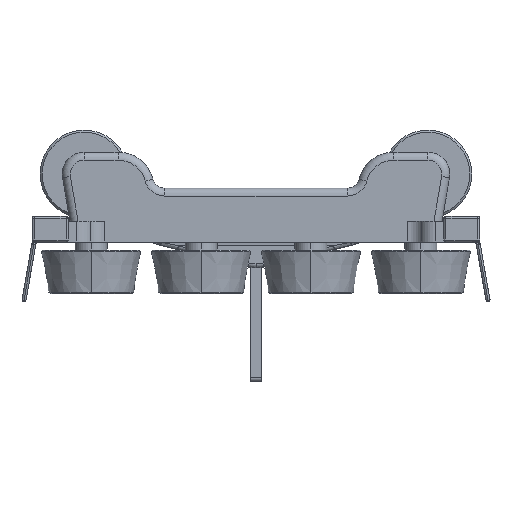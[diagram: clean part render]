
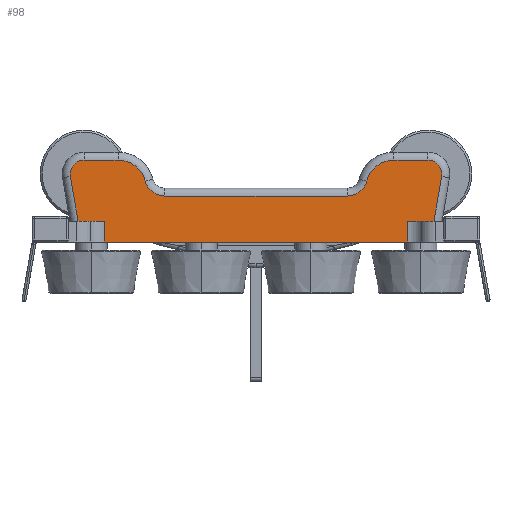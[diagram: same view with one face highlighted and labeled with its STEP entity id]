
A CAD part, front view. The second image highlights one B-rep face of the part: STEP entity #98.
In plain terms, the highlighted planar face has unit normal (0, -1, 0).
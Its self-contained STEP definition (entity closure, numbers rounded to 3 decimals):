
#7 = CARTESIAN_POINT ( 'NONE',  ( -43., -24.1, 15.5 ) ) ;
#98 = ADVANCED_FACE ( 'NONE', ( #12460 ), #105, .F. ) ;
#105 = PLANE ( 'NONE',  #8173 ) ;
#114 = CIRCLE ( 'NONE', #12217, 5. ) ;
#132 = CARTESIAN_POINT ( 'NONE',  ( -38., -24.1, -1.5 ) ) ;
#199 = VECTOR ( 'NONE', #4588, 1000. ) ;
#244 = EDGE_CURVE ( 'NONE', #2127, #3240, #6167, .T. ) ;
#251 = DIRECTION ( 'NONE',  ( 0., 0., -1. ) ) ;
#332 = VECTOR ( 'NONE', #1575, 1000. ) ;
#339 = ORIENTED_EDGE ( 'NONE', *, *, #6536, .T. ) ;
#383 = EDGE_CURVE ( 'NONE', #9277, #11331, #9674, .T. ) ;
#438 = LINE ( 'NONE', #10264, #6178 ) ;
#629 = CARTESIAN_POINT ( 'NONE',  ( 30., -24.1, -1.5 ) ) ;
#715 = VERTEX_POINT ( 'NONE', #5514 ) ;
#717 = CIRCLE ( 'NONE', #3343, 3.5 ) ;
#730 = CARTESIAN_POINT ( 'NONE',  ( -22.881, -24.1, 15. ) ) ;
#744 = LINE ( 'NONE', #629, #332 ) ;
#800 = DIRECTION ( 'NONE',  ( 0.17, 0., -0.985 ) ) ;
#913 = ORIENTED_EDGE ( 'NONE', *, *, #1101, .T. ) ;
#915 = CARTESIAN_POINT ( 'NONE',  ( -43., -24.1, 19. ) ) ;
#1101 = EDGE_CURVE ( 'NONE', #8012, #2127, #12341, .T. ) ;
#1287 = VERTEX_POINT ( 'NONE', #1860 ) ;
#1412 = CIRCLE ( 'NONE', #8259, 3.5 ) ;
#1440 = DIRECTION ( 'NONE',  ( 0., 1., 0. ) ) ;
#1443 = EDGE_LOOP ( 'NONE', ( #12444, #1889, #7961, #339, #4958, #7794, #913, #6100, #2159, #4311, #6827, #4102, #9573, #1613, #5955, #4322, #6324, #11635 ) ) ;
#1445 = CARTESIAN_POINT ( 'NONE',  ( 30., -24.1, -1.5 ) ) ;
#1575 = DIRECTION ( 'NONE',  ( -1., 0., 0. ) ) ;
#1613 = ORIENTED_EDGE ( 'NONE', *, *, #4382, .T. ) ;
#1755 = DIRECTION ( 'NONE',  ( -1., 0., 0. ) ) ;
#1829 = VERTEX_POINT ( 'NONE', #5233 ) ;
#1857 = CARTESIAN_POINT ( 'NONE',  ( 30., -24.1, 3.7 ) ) ;
#1860 = CARTESIAN_POINT ( 'NONE',  ( -44.517, -24.1, 3.7 ) ) ;
#1889 = ORIENTED_EDGE ( 'NONE', *, *, #11425, .T. ) ;
#2024 = DIRECTION ( 'NONE',  ( 0., -1., 0. ) ) ;
#2026 = CARTESIAN_POINT ( 'NONE',  ( -13.75, -24.1, -1.5 ) ) ;
#2127 = VERTEX_POINT ( 'NONE', #12458 ) ;
#2159 = ORIENTED_EDGE ( 'NONE', *, *, #12002, .T. ) ;
#2438 = VECTOR ( 'NONE', #7360, 1000. ) ;
#2474 = DIRECTION ( 'NONE',  ( 0., -1., 0. ) ) ;
#2502 = CARTESIAN_POINT ( 'NONE',  ( -43., -24.1, 19. ) ) ;
#2689 = LINE ( 'NONE', #9367, #11203 ) ;
#2830 = VERTEX_POINT ( 'NONE', #7406 ) ;
#3020 = LINE ( 'NONE', #11917, #11709 ) ;
#3066 = VERTEX_POINT ( 'NONE', #2026 ) ;
#3178 = CARTESIAN_POINT ( 'NONE',  ( 22.881, -24.1, 15. ) ) ;
#3189 = DIRECTION ( 'NONE',  ( -1., 0., 0. ) ) ;
#3240 = VERTEX_POINT ( 'NONE', #8453 ) ;
#3265 = VERTEX_POINT ( 'NONE', #6137 ) ;
#3317 = VERTEX_POINT ( 'NONE', #5622 ) ;
#3343 = AXIS2_PLACEMENT_3D ( 'NONE', #7, #2024, #6750 ) ;
#3392 = DIRECTION ( 'NONE',  ( 0., 0., 1. ) ) ;
#3430 = CARTESIAN_POINT ( 'NONE',  ( 34.5, -24.1, 12. ) ) ;
#3519 = DIRECTION ( 'NONE',  ( 0.17, 0., 0.985 ) ) ;
#3710 = CARTESIAN_POINT ( 'NONE',  ( -44.576, -24.1, 4.04 ) ) ;
#3762 = VECTOR ( 'NONE', #800, 1000. ) ;
#3775 = DIRECTION ( 'NONE',  ( 0., 0., 1. ) ) ;
#3818 = LINE ( 'NONE', #1857, #6992 ) ;
#4102 = ORIENTED_EDGE ( 'NONE', *, *, #7606, .T. ) ;
#4311 = ORIENTED_EDGE ( 'NONE', *, *, #383, .T. ) ;
#4322 = ORIENTED_EDGE ( 'NONE', *, *, #7380, .F. ) ;
#4382 = EDGE_CURVE ( 'NONE', #9453, #6188, #3020, .T. ) ;
#4519 = DIRECTION ( 'NONE',  ( 0., -1., 0. ) ) ;
#4524 = DIRECTION ( 'NONE',  ( 0., 0., 1. ) ) ;
#4588 = DIRECTION ( 'NONE',  ( -1., 0., 0. ) ) ;
#4611 = VERTEX_POINT ( 'NONE', #5298 ) ;
#4672 = CARTESIAN_POINT ( 'NONE',  ( 38., -24.1, 12. ) ) ;
#4694 = LINE ( 'NONE', #9533, #11279 ) ;
#4713 = CARTESIAN_POINT ( 'NONE',  ( 30., -24.1, 10. ) ) ;
#4958 = ORIENTED_EDGE ( 'NONE', *, *, #5035, .T. ) ;
#5035 = EDGE_CURVE ( 'NONE', #715, #2830, #6330, .T. ) ;
#5077 = DIRECTION ( 'NONE',  ( 0., 0., 1. ) ) ;
#5233 = CARTESIAN_POINT ( 'NONE',  ( -46.449, -24.1, 14.905 ) ) ;
#5298 = CARTESIAN_POINT ( 'NONE',  ( 38., -24.1, 3.7 ) ) ;
#5467 = AXIS2_PLACEMENT_3D ( 'NONE', #8242, #4519, #12084 ) ;
#5514 = CARTESIAN_POINT ( 'NONE',  ( 34.5, -24.1, 19. ) ) ;
#5530 = CARTESIAN_POINT ( 'NONE',  ( 30., -24.1, 3.7 ) ) ;
#5622 = CARTESIAN_POINT ( 'NONE',  ( 44.517, -24.1, 3.7 ) ) ;
#5863 = VECTOR ( 'NONE', #8395, 1000. ) ;
#5955 = ORIENTED_EDGE ( 'NONE', *, *, #6544, .F. ) ;
#6035 = VERTEX_POINT ( 'NONE', #10545 ) ;
#6090 = DIRECTION ( 'NONE',  ( 0., 0., 1. ) ) ;
#6100 = ORIENTED_EDGE ( 'NONE', *, *, #244, .T. ) ;
#6137 = CARTESIAN_POINT ( 'NONE',  ( 43., -24.1, 19. ) ) ;
#6164 = EDGE_CURVE ( 'NONE', #11331, #1829, #717, .T. ) ;
#6167 = CIRCLE ( 'NONE', #10187, 5. ) ;
#6178 = VECTOR ( 'NONE', #12030, 1000. ) ;
#6188 = VERTEX_POINT ( 'NONE', #132 ) ;
#6292 = CARTESIAN_POINT ( 'NONE',  ( -34.5, -24.1, 19. ) ) ;
#6324 = ORIENTED_EDGE ( 'NONE', *, *, #9896, .F. ) ;
#6330 = CIRCLE ( 'NONE', #8134, 7. ) ;
#6421 = LINE ( 'NONE', #5530, #2438 ) ;
#6528 = CARTESIAN_POINT ( 'NONE',  ( 22.881, -24.1, 10. ) ) ;
#6536 = EDGE_CURVE ( 'NONE', #3265, #715, #2689, .T. ) ;
#6544 = EDGE_CURVE ( 'NONE', #3066, #6188, #744, .T. ) ;
#6588 = DIRECTION ( 'NONE',  ( -1., 0., 0. ) ) ;
#6750 = DIRECTION ( 'NONE',  ( 0., 0., 1. ) ) ;
#6784 = VECTOR ( 'NONE', #1755, 1000. ) ;
#6827 = ORIENTED_EDGE ( 'NONE', *, *, #6164, .T. ) ;
#6992 = VECTOR ( 'NONE', #6588, 1000. ) ;
#7109 = EDGE_CURVE ( 'NONE', #2830, #8012, #114, .T. ) ;
#7332 = CARTESIAN_POINT ( 'NONE',  ( 38., -24.1, -1.5 ) ) ;
#7360 = DIRECTION ( 'NONE',  ( -1., 0., 0. ) ) ;
#7363 = LINE ( 'NONE', #1445, #199 ) ;
#7380 = EDGE_CURVE ( 'NONE', #10776, #3066, #438, .T. ) ;
#7406 = CARTESIAN_POINT ( 'NONE',  ( 27.722, -24.1, 13.75 ) ) ;
#7606 = EDGE_CURVE ( 'NONE', #1829, #1287, #9430, .T. ) ;
#7614 = CARTESIAN_POINT ( 'NONE',  ( 30., -24.1, 12. ) ) ;
#7794 = ORIENTED_EDGE ( 'NONE', *, *, #7109, .T. ) ;
#7961 = ORIENTED_EDGE ( 'NONE', *, *, #9883, .T. ) ;
#8012 = VERTEX_POINT ( 'NONE', #6528 ) ;
#8045 = EDGE_CURVE ( 'NONE', #9453, #1287, #3818, .T. ) ;
#8134 = AXIS2_PLACEMENT_3D ( 'NONE', #3430, #2474, #6090 ) ;
#8173 = AXIS2_PLACEMENT_3D ( 'NONE', #7614, #8501, #3775 ) ;
#8242 = CARTESIAN_POINT ( 'NONE',  ( -34.5, -24.1, 12. ) ) ;
#8247 = CARTESIAN_POINT ( 'NONE',  ( 43., -24.1, 15.5 ) ) ;
#8259 = AXIS2_PLACEMENT_3D ( 'NONE', #8247, #9182, #4524 ) ;
#8395 = DIRECTION ( 'NONE',  ( 0., 0., 1. ) ) ;
#8453 = CARTESIAN_POINT ( 'NONE',  ( -27.722, -24.1, 13.75 ) ) ;
#8501 = DIRECTION ( 'NONE',  ( 0., 1., 0. ) ) ;
#8744 = LINE ( 'NONE', #4672, #5863 ) ;
#9182 = DIRECTION ( 'NONE',  ( 0., -1., 0. ) ) ;
#9251 = DIRECTION ( 'NONE',  ( -1., 0., 0. ) ) ;
#9277 = VERTEX_POINT ( 'NONE', #6292 ) ;
#9367 = CARTESIAN_POINT ( 'NONE',  ( 34.5, -24.1, 19. ) ) ;
#9430 = LINE ( 'NONE', #3710, #3762 ) ;
#9453 = VERTEX_POINT ( 'NONE', #10375 ) ;
#9533 = CARTESIAN_POINT ( 'NONE',  ( 46.449, -24.1, 14.905 ) ) ;
#9573 = ORIENTED_EDGE ( 'NONE', *, *, #8045, .F. ) ;
#9674 = LINE ( 'NONE', #915, #10000 ) ;
#9883 = EDGE_CURVE ( 'NONE', #6035, #3265, #1412, .T. ) ;
#9896 = EDGE_CURVE ( 'NONE', #10536, #10776, #7363, .T. ) ;
#10000 = VECTOR ( 'NONE', #3189, 1000. ) ;
#10187 = AXIS2_PLACEMENT_3D ( 'NONE', #730, #1440, #3392 ) ;
#10264 = CARTESIAN_POINT ( 'NONE',  ( 30., -24.1, -1.5 ) ) ;
#10375 = CARTESIAN_POINT ( 'NONE',  ( -38., -24.1, 3.7 ) ) ;
#10536 = VERTEX_POINT ( 'NONE', #7332 ) ;
#10545 = CARTESIAN_POINT ( 'NONE',  ( 46.449, -24.1, 14.905 ) ) ;
#10776 = VERTEX_POINT ( 'NONE', #11795 ) ;
#11203 = VECTOR ( 'NONE', #9251, 1000. ) ;
#11279 = VECTOR ( 'NONE', #3519, 1000. ) ;
#11331 = VERTEX_POINT ( 'NONE', #2502 ) ;
#11425 = EDGE_CURVE ( 'NONE', #3317, #6035, #4694, .T. ) ;
#11635 = ORIENTED_EDGE ( 'NONE', *, *, #11784, .T. ) ;
#11709 = VECTOR ( 'NONE', #251, 1000. ) ;
#11784 = EDGE_CURVE ( 'NONE', #10536, #4611, #8744, .T. ) ;
#11795 = CARTESIAN_POINT ( 'NONE',  ( 13.75, -24.1, -1.5 ) ) ;
#11917 = CARTESIAN_POINT ( 'NONE',  ( -38., -24.1, -1.5 ) ) ;
#11939 = EDGE_CURVE ( 'NONE', #3317, #4611, #6421, .T. ) ;
#12002 = EDGE_CURVE ( 'NONE', #3240, #9277, #12104, .T. ) ;
#12030 = DIRECTION ( 'NONE',  ( -1., 0., 0. ) ) ;
#12084 = DIRECTION ( 'NONE',  ( 0., 0., 1. ) ) ;
#12102 = DIRECTION ( 'NONE',  ( 0., 1., 0. ) ) ;
#12104 = CIRCLE ( 'NONE', #5467, 7. ) ;
#12217 = AXIS2_PLACEMENT_3D ( 'NONE', #3178, #12102, #5077 ) ;
#12341 = LINE ( 'NONE', #4713, #6784 ) ;
#12444 = ORIENTED_EDGE ( 'NONE', *, *, #11939, .F. ) ;
#12458 = CARTESIAN_POINT ( 'NONE',  ( -22.881, -24.1, 10. ) ) ;
#12460 = FACE_OUTER_BOUND ( 'NONE', #1443, .T. ) ;
